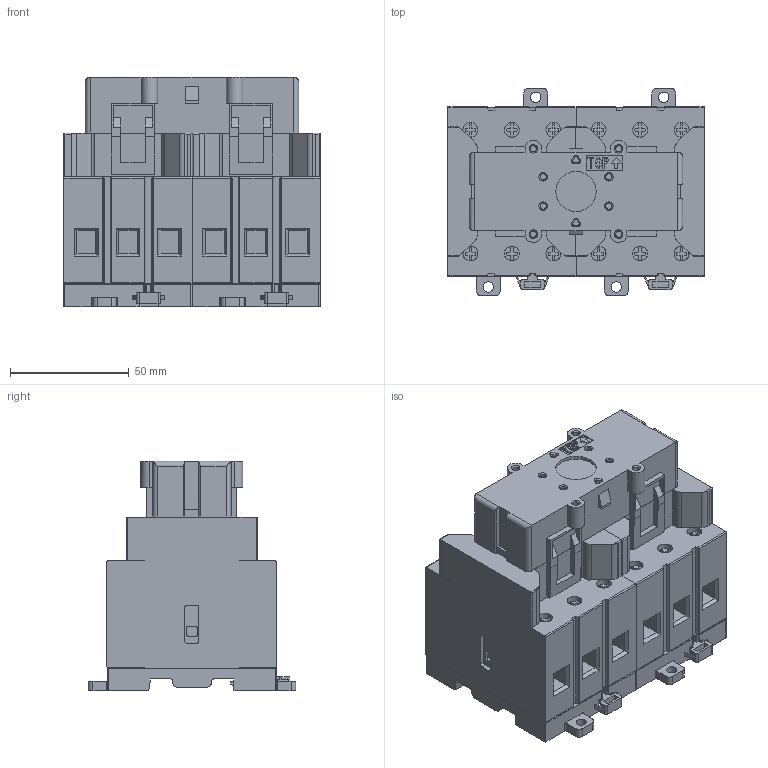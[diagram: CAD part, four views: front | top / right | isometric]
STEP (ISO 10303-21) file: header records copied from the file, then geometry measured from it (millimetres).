
FILE_DESCRIPTION(/* description */ (''),/* implementation_level */ '2;1');
FILE_NAME(/* name */ '6 pole 194E_40A.stp',/* time_stamp */ '2018-03-26T14:59:50+02:00',/* author */ (''),/* organization */ (''),/* preprocessor_version */ 'ST-DEVELOPER v16',/* originating_system */ 'SIEMENS PLM Software NX 11.0',/* authorisation */ '');
FILE_SCHEMA (('AUTOMOTIVE_DESIGN { 1 0 10303 214 3 1 1 1 }'));
Length unit declared in the file: millimetre
Products named in the file (4): 14402407; sw; 194E-A40-1753_MODEL; _asm1
Assembly tree (4 placements, depth 3):
  _asm1
    194E-A40-1753_MODEL  x2
      14402407
    sw
Bounding box: 108 x 87.5 x 96.75 mm (x, y, z)
Volume: 528814.9 mm3; surface area: 97813.5 mm2
Topology: 7 solids, 7 shells, 1218 faces, 3298 edges, 2146 vertices
Faces by surface type: plane 823, cylinder 365, cone 26, torus 4
Full cylindrical faces by diameter (mm): 2.6 x8, 4.4 x4, 6.3 x24, 17 x3
Entity records: 23789 total; most frequent: CARTESIAN_POINT 4731, ORIENTED_EDGE 3888, DIRECTION 3782, EDGE_CURVE 1944, LINE 1462, VECTOR 1462, VERTEX_POINT 1279, AXIS2_PLACEMENT_3D 1160
